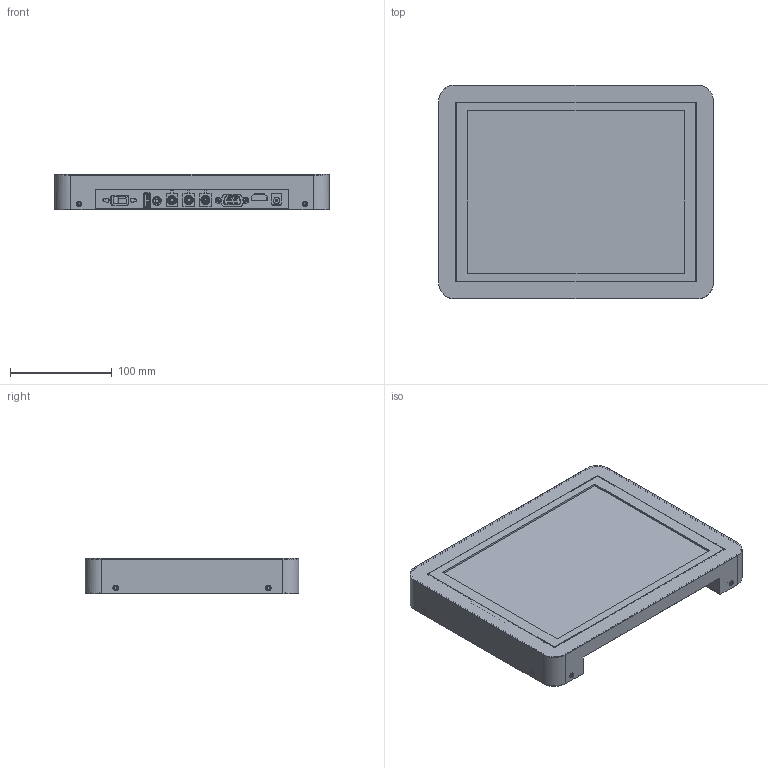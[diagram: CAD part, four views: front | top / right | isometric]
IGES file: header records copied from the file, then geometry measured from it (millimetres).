
Global section: file name: 315-PCAP104-B-3D; native system: AutoCAD 2019 – 繁體中文 (Traditional Chinese),62HAutode; preprocessor: sk Translation Framework DWG producer (atf_dwg_producer); organization: unknown; date: 20211028.090115; units: millimetre
Bounding box: 270 x 210 x 35 mm (x, y, z)
Volume: 823213.3 mm3; surface area: 691857.7 mm2
Topology: 22 solids, 22 shells, 2238 faces, 6219 edges, 4178 vertices
Faces by surface type: bspline 2238
